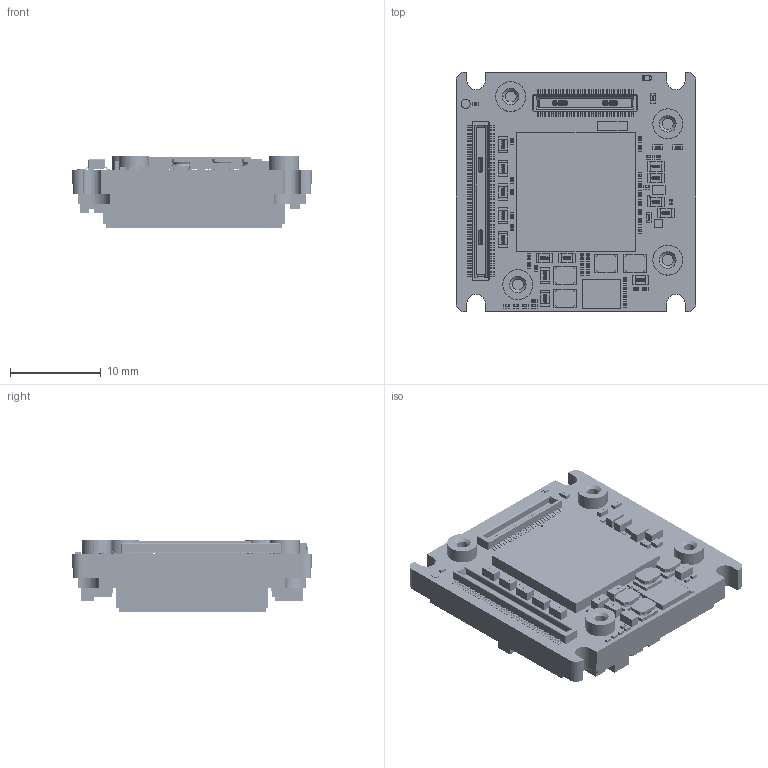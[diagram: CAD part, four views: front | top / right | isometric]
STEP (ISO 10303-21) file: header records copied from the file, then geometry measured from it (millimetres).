
FILE_DESCRIPTION (( 'STEP AP214' ), '1' );
FILE_NAME ('Alvium-Extended-Bare-Board-IMX183.STEP', '2022-12-21T12:16:23', ( '' ), ( '' ), 'SwSTEP 2.0', 'SolidWorks 2021', '' );
FILE_SCHEMA (( 'AUTOMOTIVE_DESIGN' ));
Length unit declared in the file: millimetre
Products named in the file (1): Alvium-Extended-Bare-Board-IMX183
Bounding box: 26.4 x 26.4 x 7.94 mm (x, y, z)
Surface area: 4977.2 mm2 (no closed solid volume)
Topology: 0 solids, 330 shells, 7581 faces, 23385 edges, 16745 vertices
Faces by surface type: plane 4154, bspline 2391, cylinder 972, torus 40, cone 24
Entity records: 522313 total; most frequent: CARTESIAN_POINT 251965, ORIENTED_EDGE 41639, DIRECTION 27832, EDGE_CURVE 23377, VERTEX_POINT 16745, LINE 13450, VECTOR 13450, EDGE_LOOP 8474
